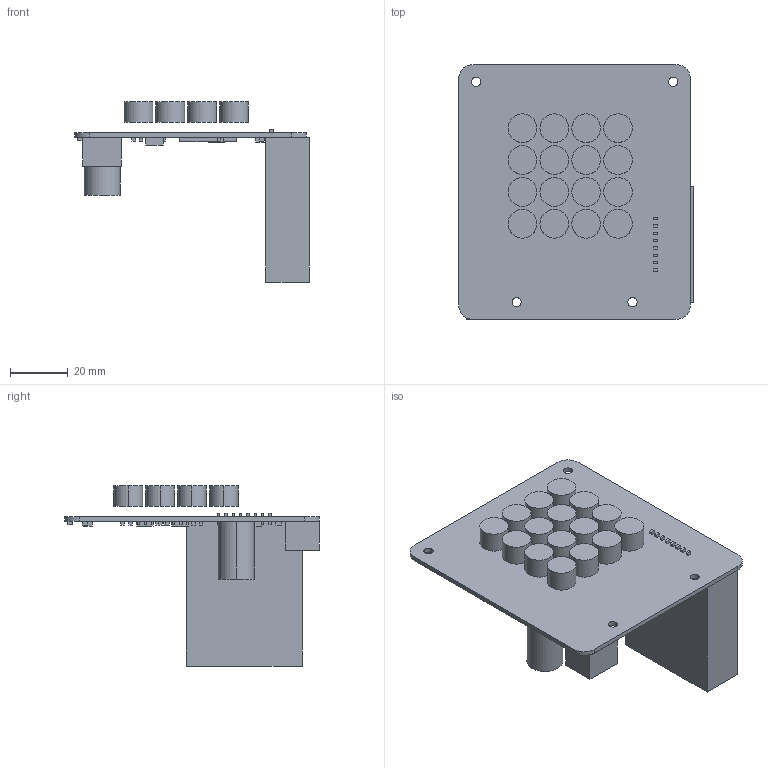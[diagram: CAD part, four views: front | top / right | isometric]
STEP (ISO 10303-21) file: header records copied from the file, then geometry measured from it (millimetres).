
FILE_DESCRIPTION (( 'STEP AP203' ), '1' );
FILE_NAME ('REF_tx4_electronics.step', '2026-10-15T10:05:20', ( '' ), ( '' ), 'SwSTEP 2.0', 'SolidWorks 2025', '' );
FILE_SCHEMA (( 'CONFIG_CONTROL_DESIGN' ));
Length unit declared in the file: millimetre
Products named in the file (1): REF_tx4_electronics
Bounding box: 80.98 x 88.01 x 62.2 mm (x, y, z)
Volume: 58787.8 mm3; surface area: 32207 mm2
Topology: 80 solids, 80 shells, 458 faces, 894 edges, 596 vertices
Faces by surface type: plane 412, cylinder 46
Entity records: 11465 total; most frequent: CARTESIAN_POINT 1949, DIRECTION 1904, ORIENTED_EDGE 1788, EDGE_CURVE 894, LINE 802, VECTOR 802, VERTEX_POINT 596, AXIS2_PLACEMENT_3D 551
